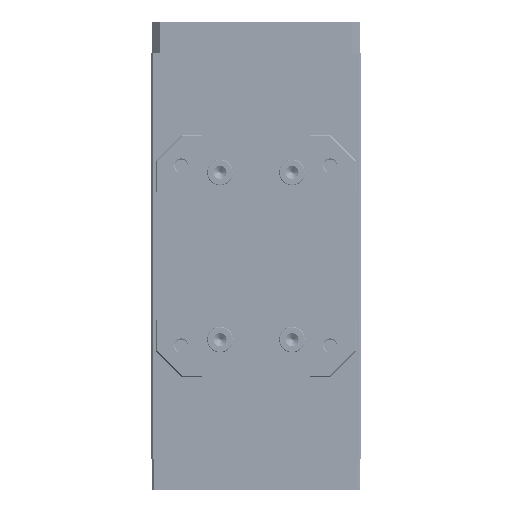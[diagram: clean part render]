
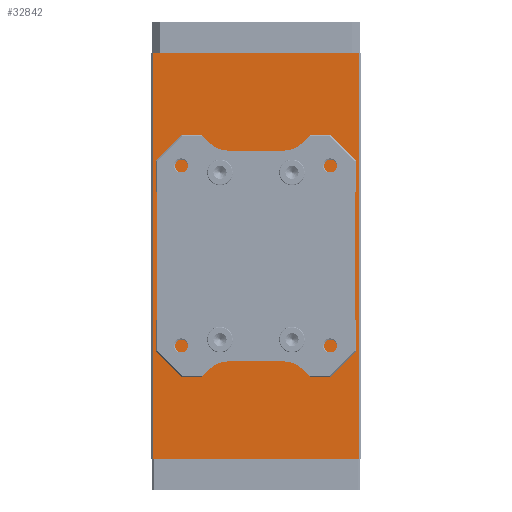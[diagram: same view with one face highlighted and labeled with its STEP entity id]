
A CAD part, front view. The second image highlights one B-rep face of the part: STEP entity #32842.
In plain terms, the highlighted planar face has unit normal (0, -1, 0).
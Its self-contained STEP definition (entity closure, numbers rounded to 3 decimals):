
#80 = DIRECTION ( 'NONE',  ( 0., 0., -1. ) ) ;
#1079 = EDGE_CURVE ( 'NONE', #31310, #16287, #44629, .T. ) ;
#2497 = CARTESIAN_POINT ( 'NONE',  ( -40., 0., 79. ) ) ;
#2878 = DIRECTION ( 'NONE',  ( 0., 0., -1. ) ) ;
#3179 = CARTESIAN_POINT ( 'NONE',  ( -41., 0., -79. ) ) ;
#3513 = AXIS2_PLACEMENT_3D ( 'NONE', #28584, #32537, #80 ) ;
#6418 = DIRECTION ( 'NONE',  ( -1., 0., 0. ) ) ;
#7002 = VECTOR ( 'NONE', #32203, 1000. ) ;
#9677 = ORIENTED_EDGE ( 'NONE', *, *, #20112, .F. ) ;
#9918 = EDGE_CURVE ( 'NONE', #13268, #41106, #10761, .T. ) ;
#10761 = LINE ( 'NONE', #14253, #43217 ) ;
#12622 = ORIENTED_EDGE ( 'NONE', *, *, #9918, .T. ) ;
#12854 = CARTESIAN_POINT ( 'NONE',  ( -40., 0., -79. ) ) ;
#13268 = VERTEX_POINT ( 'NONE', #42347 ) ;
#13554 = DIRECTION ( 'NONE',  ( 0., 0., 1. ) ) ;
#14253 = CARTESIAN_POINT ( 'NONE',  ( 40., 0., 79. ) ) ;
#16287 = VERTEX_POINT ( 'NONE', #30956 ) ;
#17736 = EDGE_LOOP ( 'NONE', ( #23300, #12622, #9677, #32628 ) ) ;
#20112 = EDGE_CURVE ( 'NONE', #31310, #41106, #42640, .T. ) ;
#21619 = FACE_OUTER_BOUND ( 'NONE', #17736, .T. ) ;
#23300 = ORIENTED_EDGE ( 'NONE', *, *, #39717, .F. ) ;
#27306 = LINE ( 'NONE', #3179, #45662 ) ;
#28584 = CARTESIAN_POINT ( 'NONE',  ( 0., 0., 0. ) ) ;
#30956 = CARTESIAN_POINT ( 'NONE',  ( -40., 0., -79. ) ) ;
#31310 = VERTEX_POINT ( 'NONE', #2497 ) ;
#32203 = DIRECTION ( 'NONE',  ( 1., 0., 0. ) ) ;
#32537 = DIRECTION ( 'NONE',  ( 0., -1., 0. ) ) ;
#32628 = ORIENTED_EDGE ( 'NONE', *, *, #1079, .T. ) ;
#32842 = ADVANCED_FACE ( 'NONE', ( #21619 ), #39255, .T. ) ;
#39255 = PLANE ( 'NONE',  #3513 ) ;
#39717 = EDGE_CURVE ( 'NONE', #13268, #16287, #27306, .T. ) ;
#41106 = VERTEX_POINT ( 'NONE', #45616 ) ;
#42347 = CARTESIAN_POINT ( 'NONE',  ( 40., 0., -79. ) ) ;
#42640 = LINE ( 'NONE', #43319, #7002 ) ;
#43217 = VECTOR ( 'NONE', #13554, 1000. ) ;
#43319 = CARTESIAN_POINT ( 'NONE',  ( -41., 0., 79. ) ) ;
#44629 = LINE ( 'NONE', #12854, #45859 ) ;
#45616 = CARTESIAN_POINT ( 'NONE',  ( 40., 0., 79. ) ) ;
#45662 = VECTOR ( 'NONE', #6418, 1000. ) ;
#45859 = VECTOR ( 'NONE', #2878, 1000. ) ;
